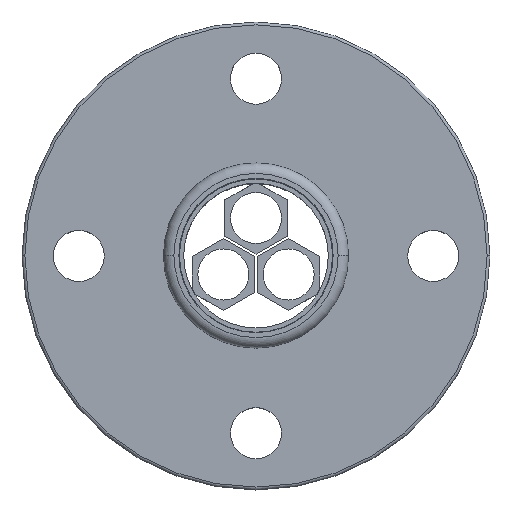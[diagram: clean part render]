
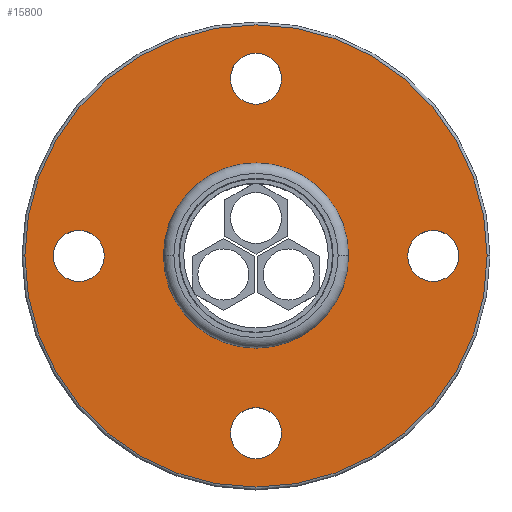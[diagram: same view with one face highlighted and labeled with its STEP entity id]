
A CAD part, top view. The second image highlights one B-rep face of the part: STEP entity #15800.
In plain terms, the highlighted planar face has unit normal (0, 0, 1) as drawn and (0, 1, 0) by its records, which use the part's own axes.
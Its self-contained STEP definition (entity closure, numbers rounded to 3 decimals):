
#14420=CARTESIAN_POINT('',(3.344,137.195,0.));
#14430=VERTEX_POINT('',#14420);
#14520=CARTESIAN_POINT('',(57.344,137.195,
0.));
#14530=VERTEX_POINT('',#14520);
#14560=CARTESIAN_POINT('',(30.344,137.195,0.));
#14570=DIRECTION('',(0.,1.,0.));
#14580=DIRECTION('',(-1.,0.,0.));
#14590=AXIS2_PLACEMENT_3D('',#14560,#14570,#14580);
#14600=CIRCLE('',#14590,27.);
#14610=EDGE_CURVE('',#14430,#14530,#14600,.T.);
#14950=CARTESIAN_POINT('',(-17.973,137.195,50.647)
);
#14960=DIRECTION('',(-0.,1.,0.));
#14970=DIRECTION('',(1.,0.,0.));
#14980=AXIS2_PLACEMENT_3D('',#14950,#14960,#14970);
#14990=PLANE('',#14980);
#15000=CARTESIAN_POINT('',(92.844,137.195,
0.));
#15010=DIRECTION('',(0.,1.,0.));
#15020=DIRECTION('',(0.,0.,1.));
#15030=AXIS2_PLACEMENT_3D('',#15000,#15010,#15020);
#15040=CIRCLE('',#15030,9.);
#15050=CARTESIAN_POINT('',(92.844,137.195,
9.));
#15060=VERTEX_POINT('',#15050);
#15070=CARTESIAN_POINT('',(92.844,137.195,
-9.));
#15080=VERTEX_POINT('',#15070);
#15090=EDGE_CURVE('',#15060,#15080,#15040,.T.);
#15100=ORIENTED_EDGE('',*,*,#15090,.F.);
#15110=EDGE_CURVE('',#15080,#15060,#15040,.T.);
#15120=ORIENTED_EDGE('',*,*,#15110,.F.);
#15130=EDGE_LOOP('',(#15120,#15100));
#15140=FACE_BOUND('',#15130,.T.);
#15150=EDGE_CURVE('',#14530,#14430,#14600,.T.);
#15160=ORIENTED_EDGE('',*,*,#15150,.F.);
#15170=ORIENTED_EDGE('',*,*,#14610,.F.);
#15180=EDGE_LOOP('',(#15170,#15160));
#15190=FACE_BOUND('',#15180,.T.);
#15200=CARTESIAN_POINT('',(-32.156,137.195,0.));
#15210=DIRECTION('',(0.,1.,0.));
#15220=DIRECTION('',(0.,0.,-1.));
#15230=AXIS2_PLACEMENT_3D('',#15200,#15210,#15220);
#15240=CIRCLE('',#15230,9.);
#15250=CARTESIAN_POINT('',(-32.156,137.195,-9.));
#15260=VERTEX_POINT('',#15250);
#15270=CARTESIAN_POINT('',(-32.156,137.195,9.));
#15280=VERTEX_POINT('',#15270);
#15290=EDGE_CURVE('',#15260,#15280,#15240,.T.);
#15300=ORIENTED_EDGE('',*,*,#15290,.F.);
#15310=EDGE_CURVE('',#15280,#15260,#15240,.T.);
#15320=ORIENTED_EDGE('',*,*,#15310,.F.);
#15330=EDGE_LOOP('',(#15320,#15300));
#15340=FACE_BOUND('',#15330,.T.);
#15350=CARTESIAN_POINT('',(30.344,137.195,62.5));
#15360=DIRECTION('',(0.,1.,0.));
#15370=DIRECTION('',(-1.,0.,0.));
#15380=AXIS2_PLACEMENT_3D('',#15350,#15360,#15370);
#15390=CIRCLE('',#15380,9.);
#15400=CARTESIAN_POINT('',(21.344,137.195,62.5));
#15410=VERTEX_POINT('',#15400);
#15420=CARTESIAN_POINT('',(39.344,137.195,62.5));
#15430=VERTEX_POINT('',#15420);
#15440=EDGE_CURVE('',#15410,#15430,#15390,.T.);
#15450=ORIENTED_EDGE('',*,*,#15440,.F.);
#15460=EDGE_CURVE('',#15430,#15410,#15390,.T.);
#15470=ORIENTED_EDGE('',*,*,#15460,.F.);
#15480=EDGE_LOOP('',(#15470,#15450));
#15490=FACE_BOUND('',#15480,.T.);
#15500=CARTESIAN_POINT('',(30.344,137.195,-62.5));
#15510=DIRECTION('',(0.,1.,0.));
#15520=DIRECTION('',(1.,0.,0.));
#15530=AXIS2_PLACEMENT_3D('',#15500,#15510,#15520);
#15540=CIRCLE('',#15530,9.);
#15550=CARTESIAN_POINT('',(39.344,137.195,-62.5));
#15560=VERTEX_POINT('',#15550);
#15570=CARTESIAN_POINT('',(21.344,137.195,-62.5));
#15580=VERTEX_POINT('',#15570);
#15590=EDGE_CURVE('',#15560,#15580,#15540,.T.);
#15600=ORIENTED_EDGE('',*,*,#15590,.F.);
#15610=EDGE_CURVE('',#15580,#15560,#15540,.T.);
#15620=ORIENTED_EDGE('',*,*,#15610,.F.);
#15630=EDGE_LOOP('',(#15620,#15600));
#15640=FACE_BOUND('',#15630,.T.);
#15650=CARTESIAN_POINT('',(30.344,137.195,0.));
#15660=DIRECTION('',(0.,1.,0.));
#15670=DIRECTION('',(1.,0.,0.));
#15680=AXIS2_PLACEMENT_3D('',#15650,#15660,#15670);
#15690=CIRCLE('',#15680,81.5);
#15700=CARTESIAN_POINT('',(111.844,137.195,0.));
#15710=VERTEX_POINT('',#15700);
#15720=CARTESIAN_POINT('',(-51.156,137.195,0.));
#15730=VERTEX_POINT('',#15720);
#15740=EDGE_CURVE('',#15710,#15730,#15690,.T.);
#15750=ORIENTED_EDGE('',*,*,#15740,.T.);
#15760=EDGE_CURVE('',#15730,#15710,#15690,.T.);
#15770=ORIENTED_EDGE('',*,*,#15760,.T.);
#15780=EDGE_LOOP('',(#15770,#15750));
#15790=FACE_OUTER_BOUND('',#15780,.T.);
#15800=ADVANCED_FACE('',(#15140,#15190,#15340,#15490,#15640,#15790),
#14990,.T.);
